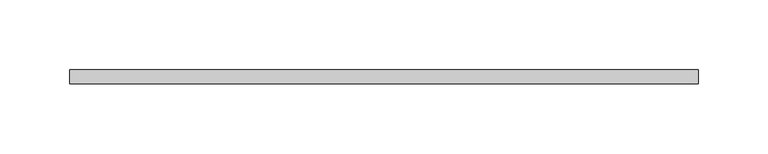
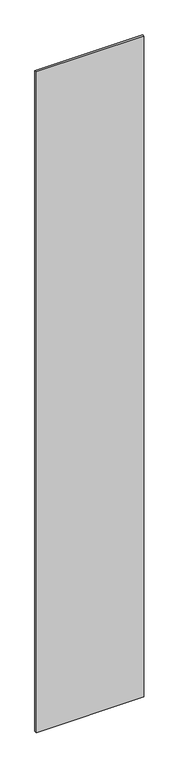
"""IFC4 building model written with IfcOpenShell, lengths in millimetres: plate geometry, システム パネル : 標準."""

from ifc_helpers import new_model, si_unit, origin, origin_with_axes, place, context, project, spatial, polyline, outline, extrude, source, transform, mapped, element, save


def plate_9aa423f5(model_context):
    return source(origin(), model_context, "Body", "SweptSolid", [
        extrude(outline(polyline([(225.5659815, -5.0), (-225.5659815, -5.0), (-225.5659815, 5.0), (225.5659815, 5.0), (225.5659815, -5.0)])), origin_with_axes(), (0.0, 0.0, 1.0), 2930.0),
    ])


if __name__ == "__main__":
    model = new_model("IFC4")
    model_context = context("Model", 3, world=origin())
    ifc_project = project(units=[si_unit("LENGTHUNIT", "METRE", prefix="MILLI")], contexts=[model_context])
    site = spatial("IfcSite", under=ifc_project)
    building = spatial("IfcBuilding", under=site)
    placement = place(None, origin())
    plate_shape = plate_9aa423f5(model_context)
    element("IfcPlate", 1, ObjectType="システム パネル : 標準", at=placement, inside=building, context=model_context, shape_type="MappedRepresentation", body=[
        mapped(plate_shape, transform((0.0, 0.0, 0.0), x_axis=(1.0, 0.0, 0.0), y_axis=(0.0, 1.0, 0.0), z_axis=(0.0, 0.0, 1.0))),
    ])
    save(model, "model.ifc")
